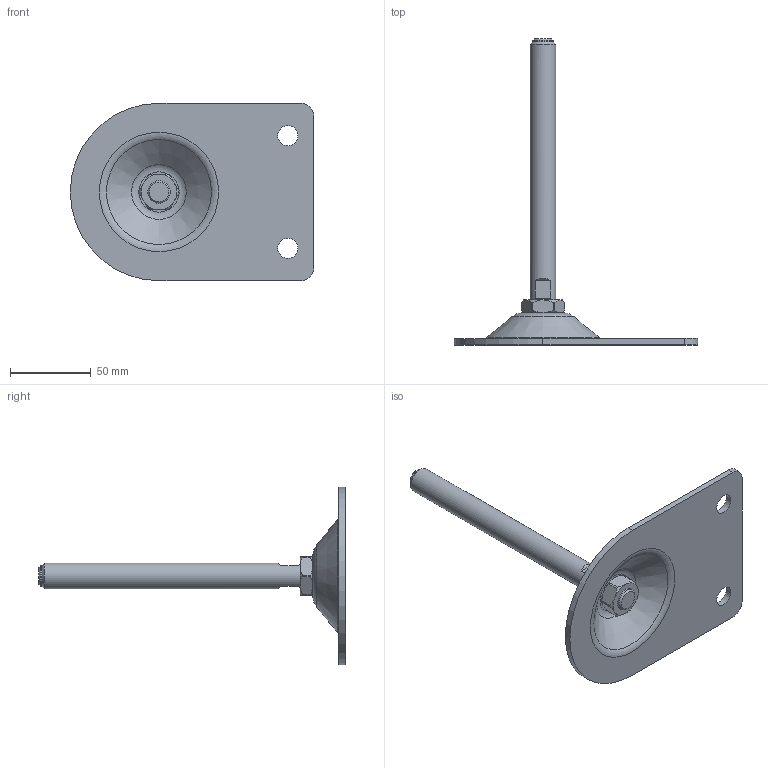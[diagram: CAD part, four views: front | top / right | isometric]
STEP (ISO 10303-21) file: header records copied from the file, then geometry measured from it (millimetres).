
FILE_DESCRIPTION(/* description */ ('DUCK FOOT M16X150 SS'),/* implementation_level */ '2;1');
FILE_NAME(/* name */ '500-1130.stp',/* time_stamp */ '2022-09-16T08:19:23+02:00',/* author */ ('ML'),/* organization */ ('CARRYLINE'),/* preprocessor_version */ 'ST-DEVELOPER v19.2',/* originating_system */ 'Autodesk Inventor 2023',/* authorisation */ '');
FILE_SCHEMA (('AUTOMOTIVE_DESIGN { 1 0 10303 214 3 1 1 }'));
Length unit declared in the file: millimetre
Products named in the file (1): 500-1130
Bounding box: 151 x 190 x 110 mm (x, y, z)
Volume: 104344.1 mm3; surface area: 45692.5 mm2
Topology: 3 solids, 3 shells, 90 faces, 199 edges, 122 vertices
Faces by surface type: plane 32, cone 31, cylinder 23, torus 4
Full cylindrical faces by diameter (mm): 12.5 x3, 14 x2, 14.5 x1, 15 x1, 16 x1
Entity records: 2488 total; most frequent: CARTESIAN_POINT 508, DIRECTION 425, ORIENTED_EDGE 398, EDGE_CURVE 199, AXIS2_PLACEMENT_3D 183, VERTEX_POINT 122, EDGE_LOOP 105, FACE_OUTER_BOUND 90
